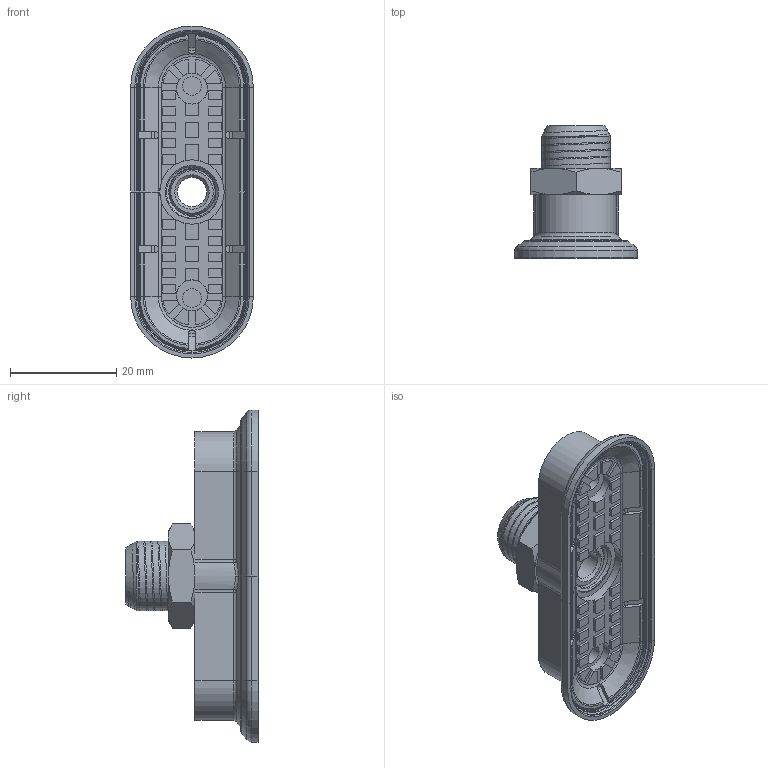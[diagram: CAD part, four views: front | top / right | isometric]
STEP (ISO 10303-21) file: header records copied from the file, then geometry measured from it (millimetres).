
FILE_DESCRIPTION (( 'STEP AP214' ), '1' );
FILE_NAME ('STEP - 4RP 62-- M14.STEP', '2023-11-20T10:55:28', ( '' ), ( '' ), 'SwSTEP 2.0', 'SolidWorks 2021', '' );
FILE_SCHEMA (( 'AUTOMOTIVE_DESIGN' ));
Length unit declared in the file: millimetre
Products named in the file (4): STEP - 4RP 62-- M14; SENGA -203-084-OK; Insert 4RP 62; 4RP 62--A
Assembly tree (3 placements, depth 2):
  STEP - 4RP 62-- M14
    4RP 62--A
    Insert 4RP 62
    SENGA -203-084-OK
Bounding box: 23.14 x 24.89 x 62.59 mm (x, y, z)
Volume: 10561.2 mm3; surface area: 11017 mm2
Topology: 4 solids, 4 shells, 643 faces, 1669 edges, 1061 vertices
Faces by surface type: plane 282, cylinder 261, cone 54, torus 29, bspline 17
Full cylindrical faces by diameter (mm): 3.5 x2, 5.5 x2, 5.85 x2, 8 x2, 9.63 x5, 12.139 x1, 13.04 x1, 13.65 x1
Entity records: 23822 total; most frequent: CARTESIAN_POINT 8100, DIRECTION 3325, ORIENTED_EDGE 3226, EDGE_CURVE 1613, AXIS2_PLACEMENT_3D 1232, VERTEX_POINT 1037, LINE 861, VECTOR 861
